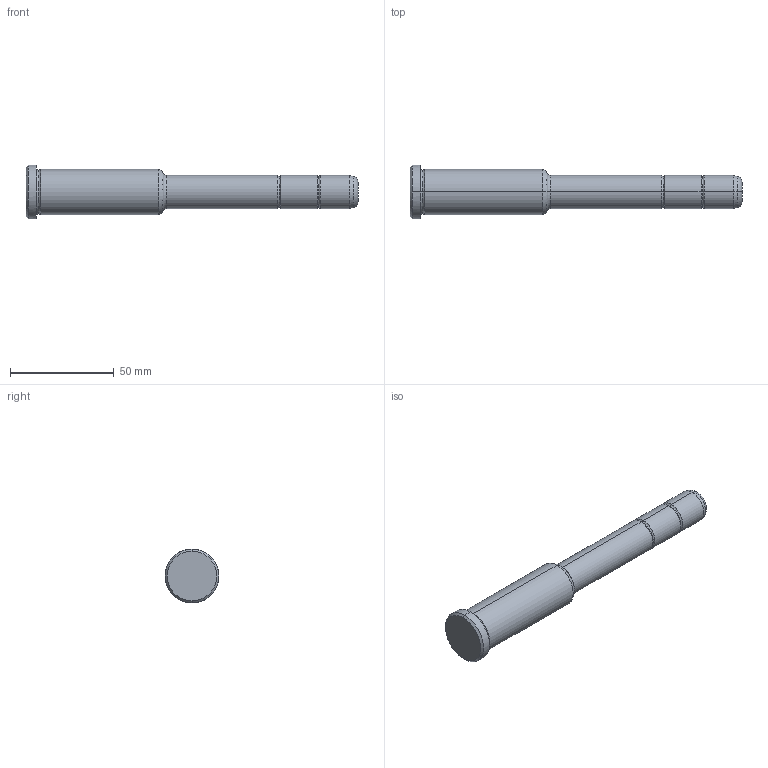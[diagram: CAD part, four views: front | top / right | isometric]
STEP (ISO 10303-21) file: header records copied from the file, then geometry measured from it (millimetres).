
FILE_DESCRIPTION(('CATIA V5 STEP Exchange'),'2;1');
FILE_NAME('C:\Users\Utente\Desktop\IO LAVORO\3D X SITO CF\X SITO\PLASTICA\351\351-16X66X160.stp','2021-08-18T11:44:16+00:00',('none'),('none'),'CATIA Version 5 Release 20 GA (IN-10)','CATIA V5 STEP AP203','none');
FILE_SCHEMA(('CONFIG_CONTROL_DESIGN'));
Length unit declared in the file: millimetre
Products named in the file (1): 351-16X66X160
Bounding box: 160 x 26 x 26 mm (x, y, z)
Volume: 44403.2 mm3; surface area: 10232.6 mm2
Topology: 1 solids, 1 shells, 36 faces, 102 edges, 70 vertices
Faces by surface type: torus 16, cylinder 10, cone 6, plane 4
Entity records: 1292 total; most frequent: CARTESIAN_POINT 321, ORIENTED_EDGE 204, DIRECTION 166, AXIS2_PLACEMENT_3D 115, EDGE_CURVE 102, CIRCLE 78, VERTEX_POINT 70, EDGE_LOOP 38
